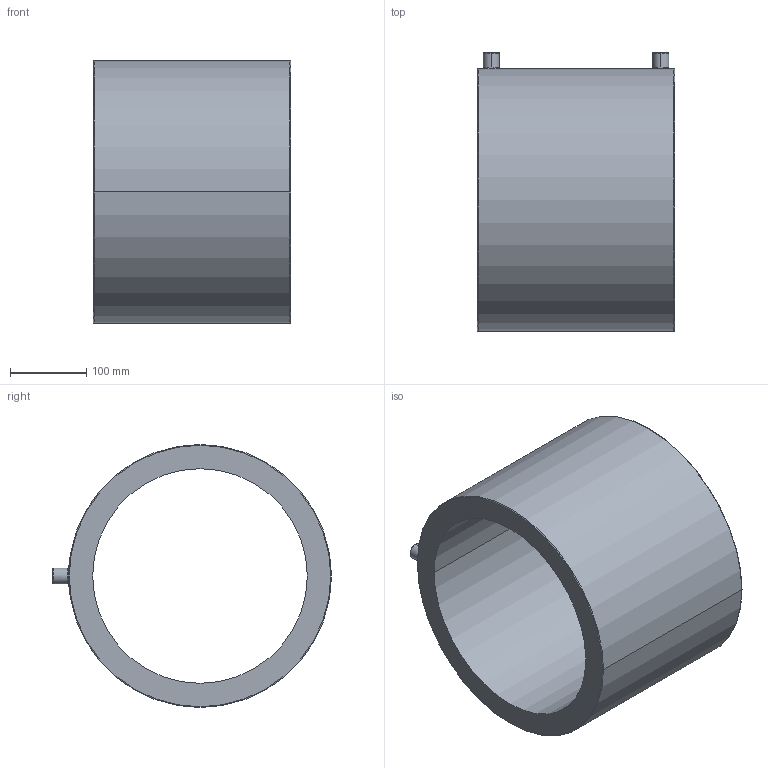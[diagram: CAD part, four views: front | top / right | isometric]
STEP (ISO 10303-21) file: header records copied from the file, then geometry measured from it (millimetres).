
FILE_DESCRIPTION (( 'STEP AP214' ), '1' );
FILE_NAME ('280mm coupler.STEP', '2020-01-22T13:46:35', ( '' ), ( '' ), 'SwSTEP 2.0', 'SolidWorks 2019', '' );
FILE_SCHEMA (( 'AUTOMOTIVE_DESIGN' ));
Length unit declared in the file: millimetre
Products named in the file (1): 280mm coupler
Bounding box: 259 x 366.5 x 345.5 mm (x, y, z)
Volume: 8116154 mm3; surface area: 576521.7 mm2
Topology: 1 solids, 1 shells, 62 faces, 134 edges, 82 vertices
Faces by surface type: cylinder 20, torus 20, plane 10, bspline 4, cone 4, sphere 4
Entity records: 2664 total; most frequent: CARTESIAN_POINT 1239, DIRECTION 328, ORIENTED_EDGE 268, AXIS2_PLACEMENT_3D 151, EDGE_CURVE 134, CIRCLE 92, VERTEX_POINT 82, EDGE_LOOP 72
